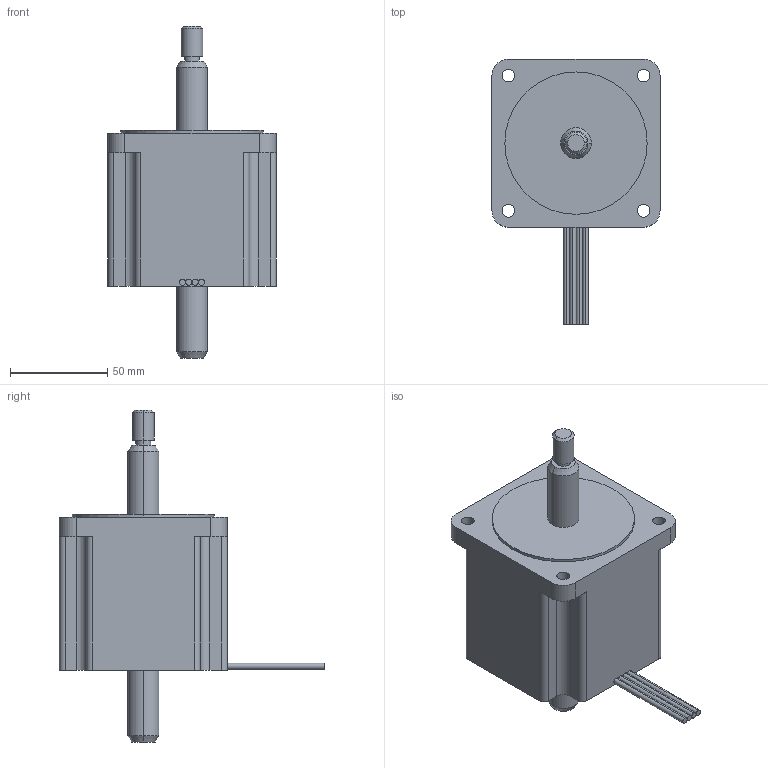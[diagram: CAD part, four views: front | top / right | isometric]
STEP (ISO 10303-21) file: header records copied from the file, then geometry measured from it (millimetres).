
FILE_DESCRIPTION (( 'STEP AP214' ), '1' );
FILE_NAME ('AMETEK-87F43-2.85-6-12.STEP', '2022-02-28T12:24:47', ( '' ), ( '' ), 'SwSTEP 2.0', 'SolidWorks 2021', '' );
FILE_SCHEMA (( 'AUTOMOTIVE_DESIGN' ));
Length unit declared in the file: inch
Products named in the file (3): 87000_Non_Captive_None; AMETEK-87F43-2.85-6-12; 87000_Non_Captive_Screw
Assembly tree (2 placements, depth 2):
  AMETEK-87F43-2.85-6-12
    87000_Non_Captive_None
    87000_Non_Captive_Screw
Bounding box: 86.31 x 136.31 x 170.36 mm (x, y, z)
Volume: 553078 mm3; surface area: 55544 mm2
Topology: 2 solids, 2 shells, 78 faces, 192 edges, 126 vertices
Faces by surface type: cylinder 44, plane 28, cone 6
Entity records: 2954 total; most frequent: DIRECTION 452, CARTESIAN_POINT 401, ORIENTED_EDGE 384, EDGE_CURVE 192, AXIS2_PLACEMENT_3D 177, VERTEX_POINT 126, VECTOR 98, LINE 98
